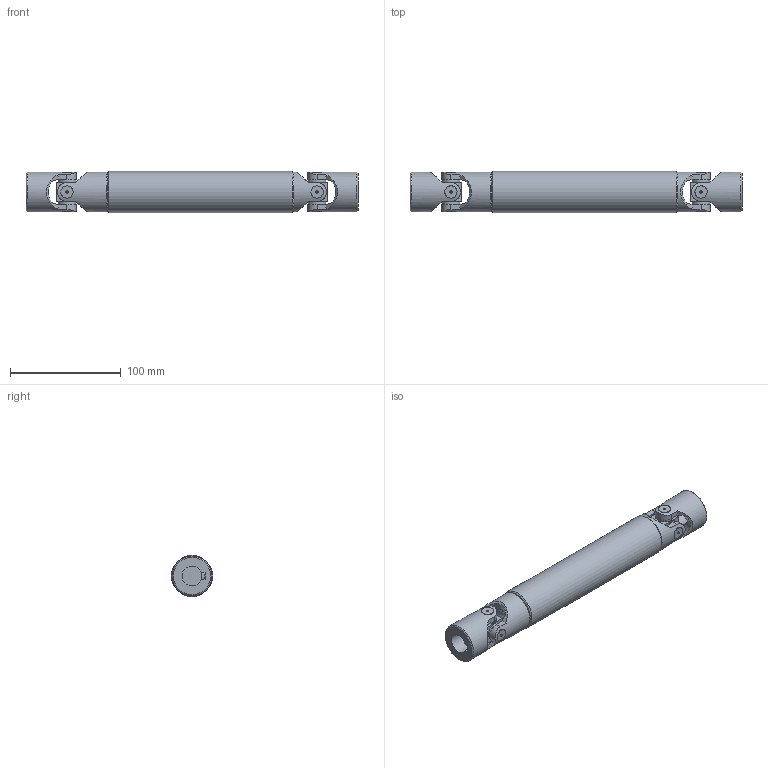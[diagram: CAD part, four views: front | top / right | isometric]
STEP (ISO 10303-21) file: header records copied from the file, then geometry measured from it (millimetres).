
FILE_DESCRIPTION(/* description */ (''),/* implementation_level */ '2;1');
FILE_NAME(/* name */ '\\SRV2016\Societa\Stefano\Disegni 3D\00Catalogo 3D\03Trasmissioni standard GA\2GA23\2GA23_SG0A1823.stp',/* time_stamp */ '2022-02-16T17:01:39+01:00',/* author */ ('acquisti'),/* organization */ (''),/* preprocessor_version */ 'ST-DEVELOPER v15.6',/* originating_system */ 'Autodesk Inventor 2015',/* authorisation */ '');
FILE_SCHEMA (('AUTOMOTIVE_DESIGN { 1 0 10303 214 3 1 1 }'));
Length unit declared in the file: millimetre
Products named in the file (5): 2G MOC; 2G SFE; 2GA23 LAI; 2GA23 LCI; 2GA23_SG0A1823
Assembly tree (6 placements, depth 2):
  2GA23_SG0A1823
    2G MOC  x2
    2G SFE  x2
    2GA23 LAI
    2GA23 LCI
Bounding box: 300 x 37.5 x 37.5 mm (x, y, z)
Volume: 223239 mm3; surface area: 78154.9 mm2
Topology: 6 solids, 6 shells, 228 faces, 561 edges, 369 vertices
Faces by surface type: plane 106, cylinder 93, cone 25, torus 4
Full cylindrical faces by diameter (mm): 2 x8, 16 x8, 18 x1, 20 x2, 31 x1, 36 x4, 37.5 x1
Entity records: 5813 total; most frequent: CARTESIAN_POINT 1703, DIRECTION 823, ORIENTED_EDGE 820, EDGE_CURVE 410, AXIS2_PLACEMENT_3D 335, VERTEX_POINT 286, EDGE_LOOP 224, FACE_OUTER_BOUND 176
